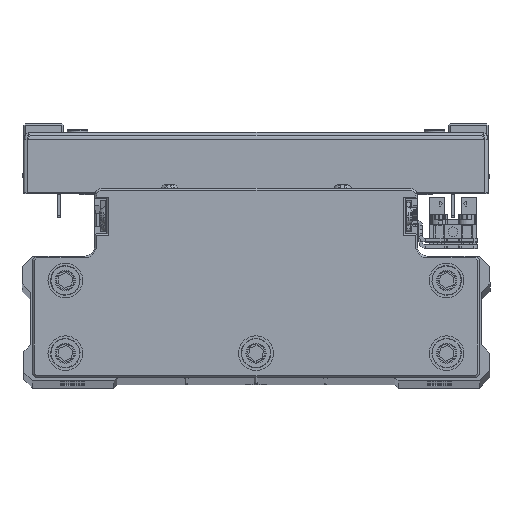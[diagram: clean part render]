
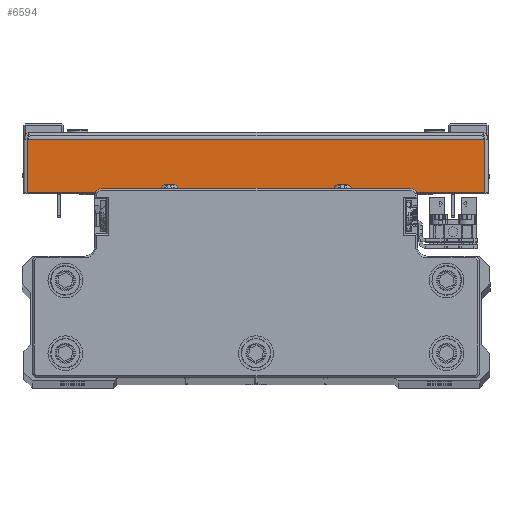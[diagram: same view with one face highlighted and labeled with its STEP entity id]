
A CAD part, top view. The second image highlights one B-rep face of the part: STEP entity #6594.
In plain terms, the highlighted planar face has unit normal (0, 0, 1) as drawn and (1, 0, 0) by its records, which use the part's own axes.
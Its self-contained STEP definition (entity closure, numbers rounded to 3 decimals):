
#899 = FACE_OUTER_BOUND ( 'NONE', #33997, .T. ) ;
#1849 = LINE ( 'NONE', #15547, #39278 ) ;
#2580 = CARTESIAN_POINT ( 'NONE',  ( 75., 16.5, 65.929 ) ) ;
#3333 = AXIS2_PLACEMENT_3D ( 'NONE', #28270, #41964, #11233 ) ;
#3568 = LINE ( 'NONE', #17249, #40616 ) ;
#4305 = LINE ( 'NONE', #17994, #32977 ) ;
#6594 = ADVANCED_FACE ( 'NONE', ( #899 ), #14590, .F. ) ;
#6949 = EDGE_CURVE ( 'NONE', #30786, #30045, #3568, .T. ) ;
#8981 = DIRECTION ( 'NONE',  ( 0., 0., 1. ) ) ;
#11233 = DIRECTION ( 'NONE',  ( 0., -1., 0. ) ) ;
#11243 = ORIENTED_EDGE ( 'NONE', *, *, #22297, .T. ) ;
#11455 = ORIENTED_EDGE ( 'NONE', *, *, #43704, .F. ) ;
#14214 = EDGE_CURVE ( 'NONE', #30786, #36419, #4305, .T. ) ;
#14590 = PLANE ( 'NONE',  #3333 ) ;
#15547 = CARTESIAN_POINT ( 'NONE',  ( 75., 0., 65.929 ) ) ;
#15662 = ORIENTED_EDGE ( 'NONE', *, *, #14214, .T. ) ;
#17249 = CARTESIAN_POINT ( 'NONE',  ( 75., 1., 67. ) ) ;
#17994 = CARTESIAN_POINT ( 'NONE',  ( 75., 0., -65.929 ) ) ;
#20026 = CARTESIAN_POINT ( 'NONE',  ( 75., 1., -65.929 ) ) ;
#21712 = CARTESIAN_POINT ( 'NONE',  ( 75., 16.5, -65.929 ) ) ;
#22297 = EDGE_CURVE ( 'NONE', #36419, #24920, #26021, .T. ) ;
#24920 = VERTEX_POINT ( 'NONE', #2580 ) ;
#26021 = LINE ( 'NONE', #39725, #35507 ) ;
#28270 = CARTESIAN_POINT ( 'NONE',  ( 75., 0., 0. ) ) ;
#29241 = DIRECTION ( 'NONE',  ( 0., 1., 0. ) ) ;
#30045 = VERTEX_POINT ( 'NONE', #30909 ) ;
#30786 = VERTEX_POINT ( 'NONE', #20026 ) ;
#30909 = CARTESIAN_POINT ( 'NONE',  ( 75., 1., 65.929 ) ) ;
#30939 = DIRECTION ( 'NONE',  ( 0., 0., 1. ) ) ;
#31686 = DIRECTION ( 'NONE',  ( 0., 1., 0. ) ) ;
#32977 = VECTOR ( 'NONE', #31686, 1000. ) ;
#33997 = EDGE_LOOP ( 'NONE', ( #42960, #15662, #11243, #11455 ) ) ;
#35507 = VECTOR ( 'NONE', #8981, 1000. ) ;
#36419 = VERTEX_POINT ( 'NONE', #21712 ) ;
#39278 = VECTOR ( 'NONE', #29241, 1000. ) ;
#39725 = CARTESIAN_POINT ( 'NONE',  ( 75., 16.5, 0. ) ) ;
#40616 = VECTOR ( 'NONE', #30939, 1000. ) ;
#41964 = DIRECTION ( 'NONE',  ( -1., 0., 0. ) ) ;
#42960 = ORIENTED_EDGE ( 'NONE', *, *, #6949, .F. ) ;
#43704 = EDGE_CURVE ( 'NONE', #30045, #24920, #1849, .T. ) ;
